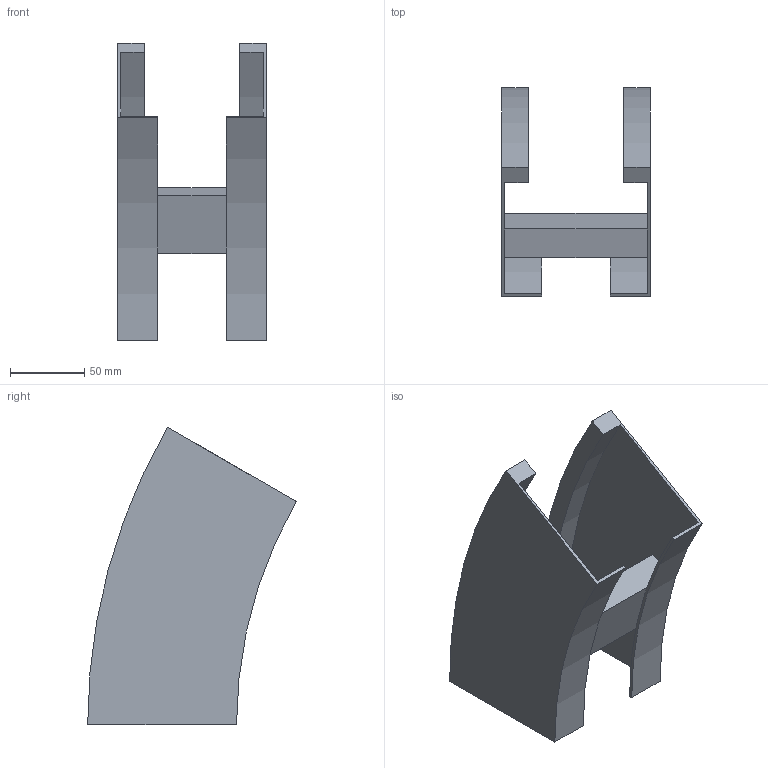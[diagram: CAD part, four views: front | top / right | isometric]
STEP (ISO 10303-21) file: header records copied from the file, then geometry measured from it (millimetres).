
FILE_DESCRIPTION (( 'STEP AP214' ), '1' );
FILE_NAME ('B2_35B3D100.step', '2025-02-21T14:46:38', ( '' ), ( '' ), 'SwSTEP 2.0', 'SolidWorks 2023', '' );
FILE_SCHEMA (( 'AUTOMOTIVE_DESIGN' ));
Length unit declared in the file: millimetre
Products named in the file (3): B2_35B3D100; TRAVERSINO_100; B2_LONGH.DISCESA_30°_H100_R300
Assembly tree (3 placements, depth 2):
  B2_35B3D100
    B2_LONGH.DISCESA_30°_H100_R300  x2
    TRAVERSINO_100
Bounding box: 100 x 140.19 x 200 mm (x, y, z)
Volume: 246042.6 mm3; surface area: 118737.3 mm2
Topology: 3 solids, 3 shells, 26 faces, 60 edges, 40 vertices
Faces by surface type: plane 18, cylinder 8
Entity records: 544 total; most frequent: DIRECTION 88, CARTESIAN_POINT 82, ORIENTED_EDGE 72, EDGE_CURVE 36, AXIS2_PLACEMENT_3D 30, VECTOR 28, LINE 28, VERTEX_POINT 24
